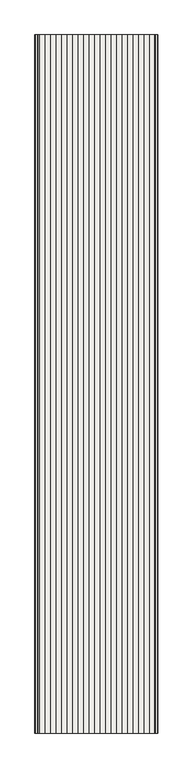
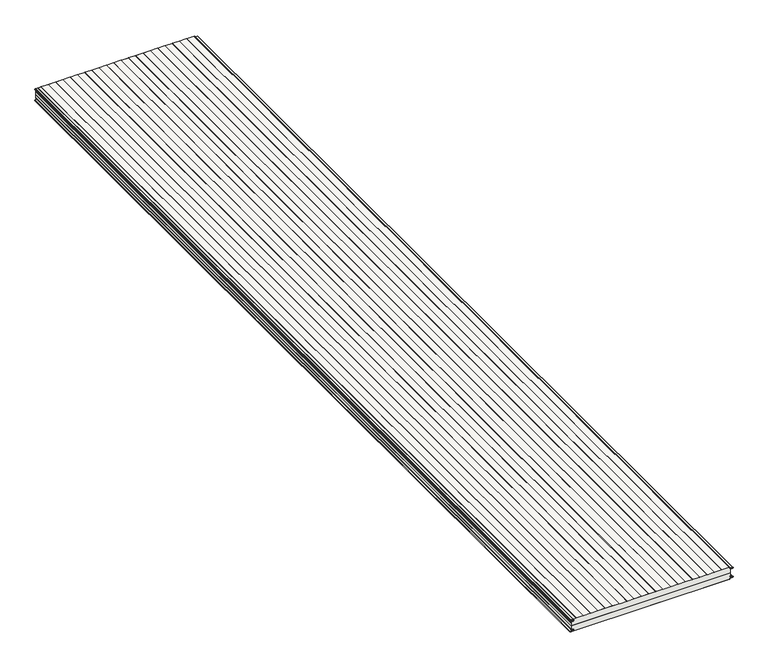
"""IFC4 building model written with IfcOpenShell, lengths in millimetres: covering geometry, Płyta warstwowa ścienna SPW-S CORE WOOL (pojedynczy arkusz) : -."""

from ifc_helpers import new_model, si_unit, point, frame, frame_2d, origin, place, context, project, spatial, polyline, circle_curve, trimmed, segment, composite_curve, outline, extrude, source, transform, mapped, element, save
from ifc_brep_helpers import plane_surface, cylinder_surface, revolved_surface, advanced_brep


def covering_0c5716a9(model_context):
    return source(origin(), model_context, "Body", "SolidModel", [
        advanced_brep(
        [(-1033.5, -5800.0, -16.6075105), (-1033.5, 0.0, -16.6075105), (-1033.5, 0.0, -40.0), (-1033.5, -5800.0, -40.0), (-1032.0785013, -5800.0, -15.109566), (-1032.0785013, 0.0, -15.109566), (-1021.2683586, -5800.0, -14.5430494), (-1021.2683586, 0.0, -14.5430494), (-1021.346807, -5800.0, -5.5519576), (-1021.346807, 0.0, -5.5519576), (-1037.1871545, -5800.0, -4.9987728), (-1037.1871545, 0.0, -4.9987728), (-1037.1173522, -5800.0, -1.0), (-1037.1173522, 0.0, -1.0), (-1035.0, -5800.0, -1.0), (-36.5, -5800.0, -40.0), (-36.5, -5800.0, -16.0462304), (-33.6570079, -5800.0, -13.0503418), (-22.43132, -5800.0, -12.4620284), (-22.5993141, -5800.0, -7.6513085), (-39.1884611, -5800.0, -7.0687817), (-41.1186621, -5800.0, -5.07), (-41.1186621, -5800.0, -3.0), (-43.1186621, -5800.0, -1.0), (-1035.0, 0.0, -1.0), (-43.1186621, 0.0, -1.0), (-41.1186621, 0.0, -3.0), (-41.1186621, 0.0, -5.07), (-39.1884611, 0.0, -7.0687817), (-22.5992017, 0.0, -7.6480914), (-22.43132, 0.0, -12.4620284), (-33.6570079, 0.0, -13.0503418), (-36.5, 0.0, -16.0462304), (-36.5, 0.0, -40.0)],
        [
            (0, 1),
            (1, 2),
            (2, 3),
            (3, 0),
            (0, 4, circle_curve(frame((-1032.0, -5800.0, -16.6075105), z_axis=(0.0, 1.0, 0.0), x_axis=(-1.0, 0.0, 0.0)), 1.5)),
            (4, 5),
            (5, 1, circle_curve(frame((-1032.0, 0.0, -16.6075105), z_axis=(0.0, -1.0, 0.0), x_axis=(-1.0, 0.0, 0.0)), 1.5)),
            (4, 6),
            (6, 7),
            (7, 5),
            (6, 8, circle_curve(frame((-1021.5038626, -5800.0, -10.049216), z_axis=(0.0, -1.0, 0.0), x_axis=(-1.0, 0.0, 0.0)), 4.5)),
            (8, 9),
            (9, 7, circle_curve(frame((-1021.5038626, 0.0, -10.049216), z_axis=(0.0, 1.0, 0.0), x_axis=(-1.0, 0.0, 0.0)), 4.5)),
            (8, 10),
            (10, 11),
            (11, 9),
            (10, 12, circle_curve(frame((-1037.1173522, -5800.0, -2.9999956), z_axis=(0.0, 1.0, 0.0), x_axis=(-1.0, 0.0, 0.0)), 1.9999956)),
            (12, 13),
            (13, 11, circle_curve(frame((-1037.1173522, 0.0, -2.9999956), z_axis=(0.0, -1.0, 0.0), x_axis=(-1.0, 0.0, 0.0)), 1.9999956)),
            (14, 12),
            (3, 15),
            (15, 16),
            (16, 17, circle_curve(frame((-33.5, -5800.0, -16.0462304), z_axis=(0.0, 1.0, 0.0), x_axis=(-1.0, 0.0, 0.0)), 3.0)),
            (17, 18),
            (18, 19, circle_curve(frame((-22.6835162, -5800.0, -10.0625421), z_axis=(0.0, -1.0, 0.0), x_axis=(-1.0, 0.0, 0.0)), 2.4127033)),
            (19, 20),
            (20, 21, circle_curve(frame((-39.1186621, -5800.0, -5.07), z_axis=(0.0, 1.0, 0.0), x_axis=(-1.0, 0.0, 0.0)), 2.0)),
            (21, 22),
            (22, 23, circle_curve(frame((-43.1186621, -5800.0, -3.0), z_axis=(0.0, -1.0, 0.0), x_axis=(-1.0, 0.0, 0.0)), 2.0)),
            (23, 14),
            (13, 24),
            (24, 25),
            (25, 26, circle_curve(frame((-43.1186621, 0.0, -3.0), z_axis=(0.0, 1.0, 0.0), x_axis=(-1.0, 0.0, 0.0)), 2.0)),
            (26, 27),
            (27, 28, circle_curve(frame((-39.1186621, 0.0, -5.07), z_axis=(0.0, -1.0, 0.0), x_axis=(-1.0, 0.0, 0.0)), 2.0)),
            (28, 29),
            (29, 30, circle_curve(frame((-22.6835162, 0.0, -10.0625421), z_axis=(0.0, 1.0, 0.0), x_axis=(-1.0, 0.0, 0.0)), 2.4127033)),
            (30, 31),
            (31, 32, circle_curve(frame((-33.5, 0.0, -16.0462304), z_axis=(0.0, -1.0, 0.0), x_axis=(-1.0, 0.0, 0.0)), 3.0)),
            (32, 33),
            (33, 2),
            (23, 25),
            (33, 15),
            (22, 26),
            (21, 27),
            (20, 28),
            (19, 29),
            (18, 30),
            (17, 31),
            (16, 32),
        ],
        [
            plane_surface(frame((-1033.5, -5800.0, -63.3924895), z_axis=(-1.0, 0.0, 0.0), x_axis=(0.0, 1.0, 0.0))),
            cylinder_surface(frame((-1032.0, -5800.0, -16.6075105), z_axis=(0.0, 1.0, 0.0), x_axis=(-1.0, 0.0, 0.0)), 1.5),
            plane_surface(frame((-1032.0785013, -5800.0, -15.109566), z_axis=(-0.052334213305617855, 0.0, 0.9986296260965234), x_axis=(0.0, 1.0, 0.0))),
            revolved_surface(polyline([(-1026.0038626, -5800.0, -10.049216), (-1026.0038626, 0.0, -10.049216)]), (-1021.5038626, -5800.0, -10.049216), (0.0, -1.0, 0.0)),
            plane_surface(frame((-1021.346807, -5800.0, -5.5519576), z_axis=(-0.03490124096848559, 0.0, -0.9993907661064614), x_axis=(0.0, 1.0, 0.0))),
            cylinder_surface(frame((-1037.1173522, -5800.0, -2.9999956), z_axis=(0.0, 1.0, 0.0), x_axis=(-1.0, 0.0, 0.0)), 1.9999956),
            plane_surface(frame((-1065.0, -5800.0, -1.0), z_axis=(0.0, -1.0, 0.0), x_axis=(-1.0, 0.0, 0.0))),
            plane_surface(frame((-1065.0, 0.0, -1.0), z_axis=(0.0, 1.0, 0.0), x_axis=(1.0, 0.0, 0.0))),
            plane_surface(frame((15.0, -5800.0, -1.0), z_axis=(0.0, 0.0, 1.0), x_axis=(0.0, 1.0, 0.0))),
            plane_surface(frame((-1065.0, -5800.0, -40.0), z_axis=(0.0, 0.0, -1.0), x_axis=(0.0, 1.0, 0.0))),
            cylinder_surface(frame((-43.1186621, -5800.0, -3.0), z_axis=(0.0, 1.0, 0.0), x_axis=(-1.0, 0.0, 0.0)), 2.0),
            plane_surface(frame((-41.1186621, -5800.0, -3.0), z_axis=(1.0, 0.0, 0.0), x_axis=(0.0, 1.0, 0.0))),
            revolved_surface(polyline([(-41.1186621, -5800.0, -5.07), (-41.1186621, 0.0, -5.07)]), (-39.1186621, -5800.0, -5.07), (0.0, -1.0, 0.0)),
            plane_surface(frame((-39.1884611, -5800.0, -7.0687817), z_axis=(0.0348994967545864, 0.0, 0.9993908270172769), x_axis=(0.0, 1.0, 0.0))),
            cylinder_surface(frame((-22.6835162, -5800.0, -10.0625421), z_axis=(0.0, 1.0, 0.0), x_axis=(-1.0, 0.0, 0.0)), 2.4127033),
            plane_surface(frame((-22.43132, -5800.0, -12.4620284), z_axis=(0.052335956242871, 0.0, -0.9986295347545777), x_axis=(0.0, 1.0, 0.0))),
            revolved_surface(polyline([(-36.5, -5800.0, -16.0462304), (-36.5, 0.0, -16.0462304)]), (-33.5, -5800.0, -16.0462304), (0.0, -1.0, 0.0)),
            plane_surface(frame((-36.5, -5800.0, -16.0462304), z_axis=(1.0, 0.0, 0.0), x_axis=(0.0, 1.0, 0.0))),
        ],
        [
            (0, [[1, 2, 3, 4]]),
            (1, [[-1, 5, 6, 7]]),
            (2, [[-6, 8, 9, 10]]),
            (3, [[-9, 11, 12, 13]]),
            (4, [[-12, 14, 15, 16]]),
            (5, [[-15, 17, 18, 19]]),
            (6, [[20, -17, -14, -11, -8, -5, -4, 21, 22, 23, 24, 25, 26, 27, 28, 29, 30]]),
            (7, [[31, 32, 33, 34, 35, 36, 37, 38, 39, 40, 41, -2, -7, -10, -13, -16, -19]]),
            (8, [[-20, -30, 42, -32, -31, -18]]),
            (9, [[-3, -41, 43, -21]]),
            (10, [[44, -33, -42, -29]]),
            (11, [[-44, -28, 45, -34]]),
            (12, [[-45, -27, 46, -35]]),
            (13, [[-46, -26, 47, -36]]),
            (14, [[-47, -25, 48, -37]]),
            (15, [[-48, -24, 49, -38]]),
            (16, [[-49, -23, 50, -39]]),
            (17, [[-50, -22, -43, -40]]),
        ],
    ),
        advanced_brep(
        [(-1037.1173522, -5800.0, -79.0), (-1035.0, -5800.0, -79.0), (-44.6192414, -5800.0, -79.0), (-43.1186621, -5800.0, -79.0), (-41.1186621, -5800.0, -77.0), (-41.1186621, -5800.0, -74.93), (-39.1884611, -5800.0, -72.9312183), (-22.5992017, -5800.0, -72.3519086), (-22.1786572, -5800.0, -67.5781667), (-33.6570079, -5800.0, -66.9496582), (-36.5, -5800.0, -63.9537696), (-36.5, -5800.0, -40.0), (-1033.5, -5800.0, -40.0), (-1033.5, -5800.0, -63.3924895), (-1032.0785013, -5800.0, -64.890434), (-1021.2683586, -5800.0, -65.4569506), (-1021.346807, -5800.0, -74.4480424), (-1037.1871545, -5800.0, -75.0012272), (-1035.0, 0.0, -79.0), (-1037.1173522, 0.0, -79.0), (-1037.1871545, 0.0, -75.0012272), (-1021.346807, 0.0, -74.4480424), (-1021.2683586, 0.0, -65.4569506), (-1032.0785013, 0.0, -64.890434), (-1033.5, 0.0, -63.3924895), (-1033.5, 0.0, -40.0), (-36.5, 0.0, -40.0), (-36.5, 0.0, -63.9537696), (-33.6570079, 0.0, -66.9496582), (-22.1786572, 0.0, -67.5781667), (-22.5993141, 0.0, -72.3486915), (-39.1884611, 0.0, -72.9312183), (-41.1186621, 0.0, -74.93), (-41.1186621, 0.0, -77.0), (-43.1186621, 0.0, -79.0), (-44.6192414, 0.0, -79.0)],
        [
            (0, 1),
            (1, 2),
            (2, 3),
            (3, 4, circle_curve(frame((-43.1186621, -5800.0, -77.0), z_axis=(0.0, -1.0, 0.0), x_axis=(-1.0, 0.0, 0.0)), 2.0)),
            (4, 5),
            (5, 6, circle_curve(frame((-39.1186621, -5800.0, -74.93), z_axis=(0.0, 1.0, 0.0), x_axis=(-1.0, 0.0, 0.0)), 2.0)),
            (6, 7),
            (7, 8, circle_curve(frame((-22.6835162, -5800.0, -69.9374579), z_axis=(0.0, -1.0, 0.0), x_axis=(-1.0, 0.0, 0.0)), 2.4127033)),
            (8, 9),
            (9, 10, circle_curve(frame((-33.5, -5800.0, -63.9537696), z_axis=(0.0, 1.0, 0.0), x_axis=(-1.0, 0.0, 0.0)), 3.0)),
            (10, 11),
            (11, 12),
            (12, 13),
            (13, 14, circle_curve(frame((-1032.0, -5800.0, -63.3924895), z_axis=(0.0, -1.0, 0.0), x_axis=(-1.0, 0.0, 0.0)), 1.5)),
            (14, 15),
            (15, 16, circle_curve(frame((-1021.5038626, -5800.0, -69.950784), z_axis=(0.0, 1.0, 0.0), x_axis=(-1.0, 0.0, 0.0)), 4.5)),
            (16, 17),
            (17, 0, circle_curve(frame((-1037.1173522, -5800.0, -77.0000044), z_axis=(0.0, -1.0, 0.0), x_axis=(-1.0, 0.0, 0.0)), 1.9999956)),
            (18, 19),
            (19, 20, circle_curve(frame((-1037.1173522, 0.0, -77.0000044), z_axis=(0.0, 1.0, 0.0), x_axis=(-1.0, 0.0, 0.0)), 1.9999956)),
            (20, 21),
            (21, 22, circle_curve(frame((-1021.5038626, 0.0, -69.950784), z_axis=(0.0, -1.0, 0.0), x_axis=(-1.0, 0.0, 0.0)), 4.5)),
            (22, 23),
            (23, 24, circle_curve(frame((-1032.0, 0.0, -63.3924895), z_axis=(0.0, 1.0, 0.0), x_axis=(-1.0, 0.0, 0.0)), 1.5)),
            (24, 25),
            (25, 26),
            (26, 27),
            (27, 28, circle_curve(frame((-33.5, 0.0, -63.9537696), z_axis=(0.0, -1.0, 0.0), x_axis=(-1.0, 0.0, 0.0)), 3.0)),
            (28, 29),
            (29, 30, circle_curve(frame((-22.6835162, 0.0, -69.9374579), z_axis=(0.0, 1.0, 0.0), x_axis=(-1.0, 0.0, 0.0)), 2.4127033)),
            (30, 31),
            (31, 32, circle_curve(frame((-39.1186621, 0.0, -74.93), z_axis=(0.0, -1.0, 0.0), x_axis=(-1.0, 0.0, 0.0)), 2.0)),
            (32, 33),
            (33, 34, circle_curve(frame((-43.1186621, 0.0, -77.0), z_axis=(0.0, 1.0, 0.0), x_axis=(-1.0, 0.0, 0.0)), 2.0)),
            (34, 35),
            (35, 18),
            (25, 12),
            (11, 26),
            (0, 19),
            (34, 3),
            (17, 20),
            (16, 21),
            (15, 22),
            (14, 23),
            (13, 24),
            (10, 27),
            (9, 28),
            (8, 29),
            (7, 30),
            (6, 31),
            (5, 32),
            (4, 33),
        ],
        [
            plane_surface(frame((-1065.0, -5800.0, -40.0), z_axis=(0.0, -1.0, 0.0), x_axis=(-1.0, 0.0, 0.0))),
            plane_surface(frame((-1065.0, 0.0, -40.0), z_axis=(0.0, 1.0, 0.0), x_axis=(1.0, 0.0, 0.0))),
            plane_surface(frame((15.0, -5800.0, -40.0), z_axis=(0.0, 0.0, 1.0), x_axis=(0.0, 1.0, 0.0))),
            plane_surface(frame((-1065.0, -5800.0, -79.0), z_axis=(0.0, 0.0, -1.0), x_axis=(0.0, 1.0, 0.0))),
            cylinder_surface(frame((-1037.1173522, -5800.0, -77.0000044), z_axis=(0.0, 1.0, 0.0), x_axis=(-1.0, 0.0, 0.0)), 1.9999956),
            plane_surface(frame((-1037.1871545, -5800.0, -75.0012272), z_axis=(-0.03490124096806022, 0.0, 0.9993907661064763), x_axis=(0.0, 1.0, 0.0))),
            revolved_surface(polyline([(-1026.0038626, -5800.0, -69.950784), (-1026.0038626, 0.0, -69.950784)]), (-1021.5038626, -5800.0, -69.950784), (0.0, -1.0, 0.0)),
            plane_surface(frame((-1021.2683586, -5800.0, -65.4569506), z_axis=(-0.05233421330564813, 0.0, -0.9986296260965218), x_axis=(0.0, 1.0, 0.0))),
            cylinder_surface(frame((-1032.0, -5800.0, -63.3924895), z_axis=(0.0, 1.0, 0.0), x_axis=(-1.0, 0.0, 0.0)), 1.5),
            plane_surface(frame((-1033.5, -5800.0, -63.3924895), z_axis=(-1.0, 0.0, 0.0), x_axis=(0.0, 1.0, 0.0))),
            plane_surface(frame((-36.5, -5800.0, -16.0462304), z_axis=(1.0, 0.0, 0.0), x_axis=(0.0, 1.0, 0.0))),
            revolved_surface(polyline([(-36.5, -5800.0, -63.9537696), (-36.5, 0.0, -63.9537696)]), (-33.5, -5800.0, -63.9537696), (0.0, -1.0, 0.0)),
            plane_surface(frame((-33.6570079, -5800.0, -66.9496582), z_axis=(0.05467409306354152, 0.0, 0.9985042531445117), x_axis=(0.0, 1.0, 0.0))),
            cylinder_surface(frame((-22.6835162, -5800.0, -69.9374579), z_axis=(0.0, 1.0, 0.0), x_axis=(-1.0, 0.0, 0.0)), 2.4127033),
            plane_surface(frame((-22.5992017, -5800.0, -72.3519086), z_axis=(0.03489949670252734, 0.0, -0.9993908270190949), x_axis=(0.0, 1.0, 0.0))),
            revolved_surface(polyline([(-41.1186621, -5800.0, -74.93), (-41.1186621, 0.0, -74.93)]), (-39.1186621, -5800.0, -74.93), (0.0, -1.0, 0.0)),
            plane_surface(frame((-41.1186621, -5800.0, -74.93), z_axis=(1.0, 0.0, 0.0), x_axis=(0.0, 1.0, 0.0))),
            cylinder_surface(frame((-43.1186621, -5800.0, -77.0), z_axis=(0.0, 1.0, 0.0), x_axis=(-1.0, 0.0, 0.0)), 2.0),
        ],
        [
            (0, [[1, 2, 3, 4, 5, 6, 7, 8, 9, 10, 11, 12, 13, 14, 15, 16, 17, 18]]),
            (1, [[19, 20, 21, 22, 23, 24, 25, 26, 27, 28, 29, 30, 31, 32, 33, 34, 35, 36]]),
            (2, [[37, -12, 38, -26]]),
            (3, [[-1, 39, -19, -36, -35, 40, -3, -2]]),
            (4, [[41, -20, -39, -18]]),
            (5, [[-41, -17, 42, -21]]),
            (6, [[-42, -16, 43, -22]]),
            (7, [[-43, -15, 44, -23]]),
            (8, [[-44, -14, 45, -24]]),
            (9, [[-45, -13, -37, -25]]),
            (10, [[46, -27, -38, -11]]),
            (11, [[-46, -10, 47, -28]]),
            (12, [[-47, -9, 48, -29]]),
            (13, [[-48, -8, 49, -30]]),
            (14, [[-49, -7, 50, -31]]),
            (15, [[-50, -6, 51, -32]]),
            (16, [[-51, -5, 52, -33]]),
            (17, [[-52, -4, -40, -34]]),
        ],
    ),
        advanced_brep(
        [(-1003.4098003, 0.0, -0.4), (-1002.0275239, 0.0, 0.0), (-957.8098003, 0.0, 0.0), (-956.4275239, 0.0, -0.4), (-912.2098003, 0.0, -0.4), (-910.8275239, 0.0, 0.0), (-866.6098003, 0.0, 0.0), (-865.2275239, 0.0, -0.4), (-821.0098003, 0.0, -0.4), (-819.6275239, 0.0, 0.0), (-775.4098003, 0.0, 0.0), (-774.0275239, 0.0, -0.4), (-729.8098003, 0.0, -0.4), (-728.4275239, 0.0, 0.0), (-684.2098003, 0.0, 0.0), (-682.8275239, 0.0, -0.4), (-638.6098003, 0.0, -0.4), (-637.2275239, 0.0, 0.0), (-593.0098003, 0.0, 0.0), (-591.6275239, 0.0, -0.4), (-547.4098003, 0.0, -0.4), (-546.0275239, 0.0, 0.0), (-501.8098003, 0.0, 0.0), (-500.4275239, 0.0, -0.4), (-456.2098003, 0.0, -0.4), (-454.8275239, 0.0, 0.0), (-410.6098003, 0.0, 0.0), (-409.2275239, 0.0, -0.4), (-365.0098003, 0.0, -0.4), (-363.6275239, 0.0, 0.0), (-319.4098003, 0.0, 0.0), (-318.0275239, 0.0, -0.4), (-273.8098003, 0.0, -0.4), (-272.4275239, 0.0, 0.0), (-228.2098003, 0.0, 0.0), (-226.8275239, 0.0, -0.4), (-182.6098003, 0.0, -0.4), (-181.2275239, 0.0, 0.0), (-137.0098003, 0.0, 0.0), (-135.6275239, 0.0, -0.4), (-91.4098003, 0.0, -0.4), (-90.0275239, 0.0, 0.0), (-43.1186621, 0.0, 0.0), (-40.1186621, 0.0, -3.0), (-40.1186621, 0.0, -5.07), (-39.1535616, 0.0, -6.0693908), (-22.7218558, 0.0, -6.6431986), (-22.6550677, 0.0, -13.4751269), (-33.6046719, 0.0, -14.0489713), (-35.5, 0.0, -16.0462304), (-35.5, 0.0, -18.5462304), (-36.5, 0.0, -18.5462304), (-36.5, 0.0, -16.0462304), (-33.6570079, 0.0, -13.0503418), (-22.43132, 0.0, -12.4620284), (-22.5993141, 0.0, -7.6513085), (-39.1884611, 0.0, -7.0687817), (-41.1186621, 0.0, -5.07), (-41.1186621, 0.0, -3.0), (-43.1186621, 0.0, -1.0), (-1035.0, 0.0, -1.0), (-1035.0, 0.0, -0.4), (-43.1186621, -5800.0, -1.0), (-41.1186621, -5800.0, -3.0), (-41.1186621, -5800.0, -5.07), (-39.1884611, -5800.0, -7.0687817), (-22.5992017, -5800.0, -7.6480914), (-22.43132, -5800.0, -12.4620284), (-33.6570079, -5800.0, -13.0503418), (-36.5, -5800.0, -16.0462304), (-36.5, -5800.0, -18.5462304), (-35.5, -5800.0, -18.5462304), (-35.5, -5800.0, -16.0462304), (-33.6046719, -5800.0, -14.0489713), (-22.6550677, -5800.0, -13.4751269), (-22.6835162, -5800.0, -6.6498388), (-39.1535616, -5800.0, -6.0693908), (-40.1186621, -5800.0, -5.07), (-40.1186621, -5800.0, -3.0), (-43.1186621, -5800.0, 0.0), (-90.0275239, -5800.0, 0.0), (-91.4098003, -5800.0, -0.4), (-135.6275239, -5800.0, -0.4), (-137.0098003, -5800.0, 0.0), (-181.2275239, -5800.0, 0.0), (-182.6098003, -5800.0, -0.4), (-226.8275239, -5800.0, -0.4), (-228.2098003, -5800.0, 0.0), (-272.4275239, -5800.0, 0.0), (-273.8098003, -5800.0, -0.4), (-318.0275239, -5800.0, -0.4), (-319.4098003, -5800.0, 0.0), (-363.6275239, -5800.0, 0.0), (-365.0098003, -5800.0, -0.4), (-409.2275239, -5800.0, -0.4), (-410.6098003, -5800.0, 0.0), (-454.8275239, -5800.0, 0.0), (-456.2098003, -5800.0, -0.4), (-500.4275239, -5800.0, -0.4), (-501.8098003, -5800.0, 0.0), (-546.0275239, -5800.0, 0.0), (-547.4098003, -5800.0, -0.4), (-591.6275239, -5800.0, -0.4), (-593.0098003, -5800.0, 0.0), (-637.2275239, -5800.0, 0.0), (-638.6098003, -5800.0, -0.4), (-682.8275239, -5800.0, -0.4), (-684.2098003, -5800.0, 0.0), (-728.4275239, -5800.0, 0.0), (-729.8098003, -5800.0, -0.4), (-774.0275239, -5800.0, -0.4), (-775.4098003, -5800.0, 0.0), (-819.6275239, -5800.0, 0.0), (-821.0098003, -5800.0, -0.4), (-865.2275239, -5800.0, -0.4), (-866.6098003, -5800.0, 0.0), (-910.8275239, -5800.0, 0.0), (-912.2098003, -5800.0, -0.4), (-956.4275239, -5800.0, -0.4), (-957.8098003, -5800.0, 0.0), (-1002.0275239, -5800.0, 0.0), (-1003.4098003, -5800.0, -0.4), (-1035.0, -5800.0, -0.4), (-1035.0, -5800.0, -1.0)],
        [
            (0, 1),
            (1, 2),
            (2, 3),
            (3, 4),
            (4, 5),
            (5, 6),
            (6, 7),
            (7, 8),
            (8, 9),
            (9, 10),
            (10, 11),
            (11, 12),
            (12, 13),
            (13, 14),
            (14, 15),
            (15, 16),
            (16, 17),
            (17, 18),
            (18, 19),
            (19, 20),
            (20, 21),
            (21, 22),
            (22, 23),
            (23, 24),
            (24, 25),
            (25, 26),
            (26, 27),
            (27, 28),
            (28, 29),
            (29, 30),
            (30, 31),
            (31, 32),
            (32, 33),
            (33, 34),
            (34, 35),
            (35, 36),
            (36, 37),
            (37, 38),
            (38, 39),
            (39, 40),
            (40, 41),
            (41, 42),
            (42, 43, circle_curve(frame((-43.1186621, 0.0, -3.0), z_axis=(0.0, 1.0, 0.0), x_axis=(1.0, 0.0, 0.0)), 3.0)),
            (43, 44),
            (44, 45, circle_curve(frame((-39.1186621, 0.0, -5.07), z_axis=(0.0, -1.0, 0.0), x_axis=(1.0, 0.0, 0.0)), 1.0)),
            (45, 46),
            (46, 47, circle_curve(frame((-22.6835162, 0.0, -10.0625421), z_axis=(0.0, 1.0, 0.0), x_axis=(1.0, 0.0, 0.0)), 3.4127033)),
            (47, 48),
            (48, 49, circle_curve(frame((-33.5, 0.0, -16.0462304), z_axis=(0.0, -1.0, 0.0), x_axis=(1.0, 0.0, 0.0)), 2.0)),
            (49, 50),
            (50, 51),
            (51, 52),
            (52, 53, circle_curve(frame((-33.5, 0.0, -16.0462304), z_axis=(0.0, 1.0, 0.0), x_axis=(1.0, 0.0, 0.0)), 3.0)),
            (53, 54),
            (54, 55, circle_curve(frame((-22.6835162, 0.0, -10.0625421), z_axis=(0.0, -1.0, 0.0), x_axis=(1.0, 0.0, 0.0)), 2.4127033)),
            (55, 56),
            (56, 57, circle_curve(frame((-39.1186621, 0.0, -5.07), z_axis=(0.0, 1.0, 0.0), x_axis=(1.0, 0.0, 0.0)), 2.0)),
            (57, 58),
            (58, 59, circle_curve(frame((-43.1186621, 0.0, -3.0), z_axis=(0.0, -1.0, 0.0), x_axis=(1.0, 0.0, 0.0)), 2.0)),
            (59, 60),
            (60, 61),
            (61, 0),
            (62, 63, circle_curve(frame((-43.1186621, -5800.0, -3.0), z_axis=(0.0, 1.0, 0.0), x_axis=(1.0, 0.0, 0.0)), 2.0)),
            (63, 64),
            (64, 65, circle_curve(frame((-39.1186621, -5800.0, -5.07), z_axis=(0.0, -1.0, 0.0), x_axis=(1.0, 0.0, 0.0)), 2.0)),
            (65, 66),
            (66, 67, circle_curve(frame((-22.6835162, -5800.0, -10.0625421), z_axis=(0.0, 1.0, 0.0), x_axis=(1.0, 0.0, 0.0)), 2.4127033)),
            (67, 68),
            (68, 69, circle_curve(frame((-33.5, -5800.0, -16.0462304), z_axis=(0.0, -1.0, 0.0), x_axis=(1.0, 0.0, 0.0)), 3.0)),
            (69, 70),
            (70, 71),
            (71, 72),
            (72, 73, circle_curve(frame((-33.5, -5800.0, -16.0462304), z_axis=(0.0, 1.0, 0.0), x_axis=(1.0, 0.0, 0.0)), 2.0)),
            (73, 74),
            (74, 75, circle_curve(frame((-22.6835162, -5800.0, -10.0625421), z_axis=(0.0, -1.0, 0.0), x_axis=(1.0, 0.0, 0.0)), 3.4127033)),
            (75, 76),
            (76, 77, circle_curve(frame((-39.1186621, -5800.0, -5.07), z_axis=(0.0, 1.0, 0.0), x_axis=(1.0, 0.0, 0.0)), 1.0)),
            (77, 78),
            (78, 79, circle_curve(frame((-43.1186621, -5800.0, -3.0), z_axis=(0.0, -1.0, 0.0), x_axis=(1.0, 0.0, 0.0)), 3.0)),
            (79, 80),
            (80, 81),
            (81, 82),
            (82, 83),
            (83, 84),
            (84, 85),
            (85, 86),
            (86, 87),
            (87, 88),
            (88, 89),
            (89, 90),
            (90, 91),
            (91, 92),
            (92, 93),
            (93, 94),
            (94, 95),
            (95, 96),
            (96, 97),
            (97, 98),
            (98, 99),
            (99, 100),
            (100, 101),
            (101, 102),
            (102, 103),
            (103, 104),
            (104, 105),
            (105, 106),
            (106, 107),
            (107, 108),
            (108, 109),
            (109, 110),
            (110, 111),
            (111, 112),
            (112, 113),
            (113, 114),
            (114, 115),
            (115, 116),
            (116, 117),
            (117, 118),
            (118, 119),
            (119, 120),
            (120, 121),
            (121, 122),
            (122, 123),
            (123, 62),
            (59, 62),
            (123, 60),
            (56, 65),
            (64, 57),
            (63, 58),
            (55, 66),
            (53, 68),
            (67, 54),
            (52, 69),
            (51, 70),
            (50, 71),
            (42, 79),
            (78, 43),
            (77, 44),
            (76, 45),
            (75, 46),
            (47, 74),
            (73, 48),
            (72, 49),
            (121, 0),
            (61, 122),
            (120, 1),
            (119, 2),
            (118, 3),
            (117, 4),
            (116, 5),
            (115, 6),
            (114, 7),
            (113, 8),
            (112, 9),
            (111, 10),
            (110, 11),
            (109, 12),
            (108, 13),
            (107, 14),
            (106, 15),
            (105, 16),
            (104, 17),
            (103, 18),
            (102, 19),
            (101, 20),
            (100, 21),
            (99, 22),
            (98, 23),
            (97, 24),
            (96, 25),
            (95, 26),
            (94, 27),
            (93, 28),
            (92, 29),
            (91, 30),
            (90, 31),
            (89, 32),
            (88, 33),
            (87, 34),
            (86, 35),
            (85, 36),
            (84, 37),
            (83, 38),
            (82, 39),
            (81, 40),
            (80, 41),
        ],
        [
            plane_surface(frame((-35.0, 0.0, 0.0), z_axis=(0.0, 1.0, 0.0), x_axis=(1.0, 0.0, 0.0))),
            plane_surface(frame((-35.0, -5800.0, 0.0), z_axis=(0.0, -1.0, 0.0), x_axis=(1.0, 0.0, 0.0))),
            plane_surface(frame((-43.1186621, 0.0, -1.0), z_axis=(0.0, 0.0, -1.0), x_axis=(0.0, -1.0, 0.0))),
            cylinder_surface(frame((-39.1186621, 0.0, -5.07), z_axis=(0.0, 1.0, 0.0), x_axis=(1.0, 0.0, 0.0)), 2.0),
            plane_surface(frame((-41.1186621, 0.0, -5.07), z_axis=(-1.0, 0.0, 0.0), x_axis=(0.0, -1.0, 0.0))),
            revolved_surface(polyline([(-41.1186621, -5800.0, -3.0), (-41.1186621, 0.0, -3.0)]), (-43.1186621, 0.0, -3.0), (0.0, -1.0, 0.0)),
            plane_surface(frame((-22.5992017, 0.0, -7.6480914), z_axis=(-0.034899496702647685, 0.0, -0.9993908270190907), x_axis=(0.0, -1.0, 0.0))),
            plane_surface(frame((-33.6570079, 0.0, -13.0503418), z_axis=(-0.05233595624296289, 0.0, 0.998629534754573), x_axis=(0.0, -1.0, 0.0))),
            cylinder_surface(frame((-33.5, 0.0, -16.0462304), z_axis=(0.0, 1.0, 0.0), x_axis=(1.0, 0.0, 0.0)), 3.0),
            plane_surface(frame((-36.5, 0.0, -18.5462304), z_axis=(-1.0, 0.0, 0.0), x_axis=(0.0, -1.0, 0.0))),
            plane_surface(frame((-35.5, 0.0, -18.5462304), z_axis=(0.0, 0.0, -1.0), x_axis=(0.0, -1.0, 0.0))),
            cylinder_surface(frame((-43.1186621, 0.0, -3.0), z_axis=(0.0, 1.0, 0.0), x_axis=(1.0, 0.0, 0.0)), 3.0),
            plane_surface(frame((-40.1186621, 0.0, -3.0), z_axis=(1.0, 0.0, 0.0), x_axis=(0.0, -1.0, 0.0))),
            revolved_surface(polyline([(-38.1186621, -5800.0, -5.07), (-38.1186621, 0.0, -5.07)]), (-39.1186621, 0.0, -5.07), (0.0, -1.0, 0.0)),
            plane_surface(frame((-39.1535616, 0.0, -6.0693908), z_axis=(0.03489949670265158, 0.0, 0.9993908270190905), x_axis=(0.0, -1.0, 0.0))),
            plane_surface(frame((-22.6550677, 0.0, -13.4751269), z_axis=(0.052335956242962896, 0.0, -0.998629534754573), x_axis=(0.0, -1.0, 0.0))),
            revolved_surface(polyline([(-31.5, -5800.0, -16.0462304), (-31.5, 0.0, -16.0462304)]), (-33.5, 0.0, -16.0462304), (0.0, -1.0, 0.0)),
            cylinder_surface(frame((-22.6835162, 0.0, -10.0625421), z_axis=(0.0, 1.0, 0.0), x_axis=(1.0, 0.0, 0.0)), 3.4127033),
            revolved_surface(polyline([(-20.2708129, -5800.0, -10.0625421), (-20.2708129, 0.0, -10.0625421)]), (-22.6835162, 0.0, -10.0625421), (0.0, -1.0, 0.0)),
            plane_surface(frame((-35.5, 0.0, -16.0462304), z_axis=(1.0, 0.0, 0.0), x_axis=(0.0, -1.0, 0.0))),
            plane_surface(frame((-1047.6275239, 0.0, -0.4), z_axis=(0.0, 0.0, 1.0), x_axis=(0.0, -1.0, 0.0))),
            plane_surface(frame((-1003.4098003, 0.0, -0.4), z_axis=(-0.27797301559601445, 0.0, 0.9605888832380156), x_axis=(0.0, -1.0, 0.0))),
            plane_surface(frame((-1002.0275239, 0.0, 0.0), z_axis=(0.0, 0.0, 1.0), x_axis=(0.0, -1.0, 0.0))),
            plane_surface(frame((-957.8098003, 0.0, 0.0), z_axis=(0.27797301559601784, 0.0, 0.9605888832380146), x_axis=(0.0, -1.0, 0.0))),
            plane_surface(frame((-956.4275239, 0.0, -0.4), z_axis=(0.0, 0.0, 1.0), x_axis=(0.0, -1.0, 0.0))),
            plane_surface(frame((-912.2098003, 0.0, -0.4), z_axis=(-0.27797301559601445, 0.0, 0.9605888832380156), x_axis=(0.0, -1.0, 0.0))),
            plane_surface(frame((-910.8275239, 0.0, 0.0), z_axis=(0.0, 0.0, 1.0), x_axis=(0.0, -1.0, 0.0))),
            plane_surface(frame((-866.6098003, 0.0, 0.0), z_axis=(0.27797301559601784, 0.0, 0.9605888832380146), x_axis=(0.0, -1.0, 0.0))),
            plane_surface(frame((-865.2275239, 0.0, -0.4), z_axis=(0.0, 0.0, 1.0), x_axis=(0.0, -1.0, 0.0))),
            plane_surface(frame((-821.0098003, 0.0, -0.4), z_axis=(-0.27797301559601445, 0.0, 0.9605888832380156), x_axis=(0.0, -1.0, 0.0))),
            plane_surface(frame((-819.6275239, 0.0, 0.0), z_axis=(0.0, 0.0, 1.0), x_axis=(0.0, -1.0, 0.0))),
            plane_surface(frame((-775.4098003, 0.0, 0.0), z_axis=(0.27797301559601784, 0.0, 0.9605888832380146), x_axis=(0.0, -1.0, 0.0))),
            plane_surface(frame((-774.0275239, 0.0, -0.4), z_axis=(0.0, 0.0, 1.0), x_axis=(0.0, -1.0, 0.0))),
            plane_surface(frame((-729.8098003, 0.0, -0.4), z_axis=(-0.27797301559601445, 0.0, 0.9605888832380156), x_axis=(0.0, -1.0, 0.0))),
            plane_surface(frame((-728.4275239, 0.0, 0.0), z_axis=(0.0, 0.0, 1.0), x_axis=(0.0, -1.0, 0.0))),
            plane_surface(frame((-684.2098003, 0.0, 0.0), z_axis=(0.27797301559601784, 0.0, 0.9605888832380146), x_axis=(0.0, -1.0, 0.0))),
            plane_surface(frame((-682.8275239, 0.0, -0.4), z_axis=(0.0, 0.0, 1.0), x_axis=(0.0, -1.0, 0.0))),
            plane_surface(frame((-638.6098003, 0.0, -0.4), z_axis=(-0.27797301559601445, 0.0, 0.9605888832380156), x_axis=(0.0, -1.0, 0.0))),
            plane_surface(frame((-637.2275239, 0.0, 0.0), z_axis=(0.0, 0.0, 1.0), x_axis=(0.0, -1.0, 0.0))),
            plane_surface(frame((-593.0098003, 0.0, 0.0), z_axis=(0.27797301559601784, 0.0, 0.9605888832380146), x_axis=(0.0, -1.0, 0.0))),
            plane_surface(frame((-591.6275239, 0.0, -0.4), z_axis=(0.0, 0.0, 1.0), x_axis=(0.0, -1.0, 0.0))),
            plane_surface(frame((-547.4098003, 0.0, -0.4), z_axis=(-0.27797301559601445, 0.0, 0.9605888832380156), x_axis=(0.0, -1.0, 0.0))),
            plane_surface(frame((-546.0275239, 0.0, 0.0), z_axis=(0.0, 0.0, 1.0), x_axis=(0.0, -1.0, 0.0))),
            plane_surface(frame((-501.8098003, 0.0, 0.0), z_axis=(0.27797301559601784, 0.0, 0.9605888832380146), x_axis=(0.0, -1.0, 0.0))),
            plane_surface(frame((-500.4275239, 0.0, -0.4), z_axis=(0.0, 0.0, 1.0), x_axis=(0.0, -1.0, 0.0))),
            plane_surface(frame((-456.2098003, 0.0, -0.4), z_axis=(-0.27797301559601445, 0.0, 0.9605888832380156), x_axis=(0.0, -1.0, 0.0))),
            plane_surface(frame((-454.8275239, 0.0, 0.0), z_axis=(0.0, 0.0, 1.0), x_axis=(0.0, -1.0, 0.0))),
            plane_surface(frame((-410.6098003, 0.0, 0.0), z_axis=(0.27797301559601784, 0.0, 0.9605888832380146), x_axis=(0.0, -1.0, 0.0))),
            plane_surface(frame((-409.2275239, 0.0, -0.4), z_axis=(0.0, 0.0, 1.0), x_axis=(0.0, -1.0, 0.0))),
            plane_surface(frame((-365.0098003, 0.0, -0.4), z_axis=(-0.27797301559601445, 0.0, 0.9605888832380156), x_axis=(0.0, -1.0, 0.0))),
            plane_surface(frame((-363.6275239, 0.0, 0.0), z_axis=(0.0, 0.0, 1.0), x_axis=(0.0, -1.0, 0.0))),
            plane_surface(frame((-319.4098003, 0.0, 0.0), z_axis=(0.27797301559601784, 0.0, 0.9605888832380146), x_axis=(0.0, -1.0, 0.0))),
            plane_surface(frame((-318.0275239, 0.0, -0.4), z_axis=(0.0, 0.0, 1.0), x_axis=(0.0, -1.0, 0.0))),
            plane_surface(frame((-273.8098003, 0.0, -0.4), z_axis=(-0.27797301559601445, 0.0, 0.9605888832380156), x_axis=(0.0, -1.0, 0.0))),
            plane_surface(frame((-272.4275239, 0.0, 0.0), z_axis=(0.0, 0.0, 1.0), x_axis=(0.0, -1.0, 0.0))),
            plane_surface(frame((-228.2098003, 0.0, 0.0), z_axis=(0.27797301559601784, 0.0, 0.9605888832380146), x_axis=(0.0, -1.0, 0.0))),
            plane_surface(frame((-226.8275239, 0.0, -0.4), z_axis=(0.0, 0.0, 1.0), x_axis=(0.0, -1.0, 0.0))),
            plane_surface(frame((-182.6098003, 0.0, -0.4), z_axis=(-0.27797301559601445, 0.0, 0.9605888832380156), x_axis=(0.0, -1.0, 0.0))),
            plane_surface(frame((-181.2275239, 0.0, 0.0), z_axis=(0.0, 0.0, 1.0), x_axis=(0.0, -1.0, 0.0))),
            plane_surface(frame((-137.0098003, 0.0, 0.0), z_axis=(0.27797301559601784, 0.0, 0.9605888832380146), x_axis=(0.0, -1.0, 0.0))),
            plane_surface(frame((-135.6275239, 0.0, -0.4), z_axis=(0.0, 0.0, 1.0), x_axis=(0.0, -1.0, 0.0))),
            plane_surface(frame((-91.4098003, 0.0, -0.4), z_axis=(-0.27797301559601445, 0.0, 0.9605888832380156), x_axis=(0.0, -1.0, 0.0))),
            plane_surface(frame((-90.0275239, 0.0, 0.0), z_axis=(0.0, 0.0, 1.0), x_axis=(0.0, -1.0, 0.0))),
            plane_surface(frame((-1035.0, -5800.0, -1.0), z_axis=(-1.0, 0.0, 0.0), x_axis=(0.0, 1.0, 0.0))),
        ],
        [
            (0, [[1, 2, 3, 4, 5, 6, 7, 8, 9, 10, 11, 12, 13, 14, 15, 16, 17, 18, 19, 20, 21, 22, 23, 24, 25, 26, 27, 28, 29, 30, 31, 32, 33, 34, 35, 36, 37, 38, 39, 40, 41, 42, 43, 44, 45, 46, 47, 48, 49, 50, 51, 52, 53, 54, 55, 56, 57, 58, 59, 60, 61, 62]]),
            (1, [[63, 64, 65, 66, 67, 68, 69, 70, 71, 72, 73, 74, 75, 76, 77, 78, 79, 80, 81, 82, 83, 84, 85, 86, 87, 88, 89, 90, 91, 92, 93, 94, 95, 96, 97, 98, 99, 100, 101, 102, 103, 104, 105, 106, 107, 108, 109, 110, 111, 112, 113, 114, 115, 116, 117, 118, 119, 120, 121, 122, 123, 124]]),
            (2, [[125, -124, 126, -60]]),
            (3, [[-57, 127, -65, 128]]),
            (4, [[-58, -128, -64, 129]]),
            (5, [[-59, -129, -63, -125]]),
            (6, [[-56, 130, -66, -127]]),
            (7, [[-54, 131, -68, 132]]),
            (8, [[-53, 133, -69, -131]]),
            (9, [[-52, 134, -70, -133]]),
            (10, [[-51, 135, -71, -134]]),
            (11, [[-43, 136, -79, 137]]),
            (12, [[-44, -137, -78, 138]]),
            (13, [[-45, -138, -77, 139]]),
            (14, [[-46, -139, -76, 140]]),
            (15, [[-48, 141, -74, 142]]),
            (16, [[-49, -142, -73, 143]]),
            (17, [[-47, -140, -75, -141]]),
            (18, [[-55, -132, -67, -130]]),
            (19, [[-50, -143, -72, -135]]),
            (20, [[144, -62, 145, -122]]),
            (21, [[-1, -144, -121, 146]]),
            (22, [[-2, -146, -120, 147]]),
            (23, [[-3, -147, -119, 148]]),
            (24, [[-4, -148, -118, 149]]),
            (25, [[-5, -149, -117, 150]]),
            (26, [[-6, -150, -116, 151]]),
            (27, [[-7, -151, -115, 152]]),
            (28, [[-8, -152, -114, 153]]),
            (29, [[-9, -153, -113, 154]]),
            (30, [[-10, -154, -112, 155]]),
            (31, [[-11, -155, -111, 156]]),
            (32, [[-12, -156, -110, 157]]),
            (33, [[-13, -157, -109, 158]]),
            (34, [[-14, -158, -108, 159]]),
            (35, [[-15, -159, -107, 160]]),
            (36, [[-16, -160, -106, 161]]),
            (37, [[-17, -161, -105, 162]]),
            (38, [[-18, -162, -104, 163]]),
            (39, [[-19, -163, -103, 164]]),
            (40, [[-20, -164, -102, 165]]),
            (41, [[-21, -165, -101, 166]]),
            (42, [[-22, -166, -100, 167]]),
            (43, [[-23, -167, -99, 168]]),
            (44, [[-24, -168, -98, 169]]),
            (45, [[-25, -169, -97, 170]]),
            (46, [[-26, -170, -96, 171]]),
            (47, [[-27, -171, -95, 172]]),
            (48, [[-28, -172, -94, 173]]),
            (49, [[-29, -173, -93, 174]]),
            (50, [[-30, -174, -92, 175]]),
            (51, [[-31, -175, -91, 176]]),
            (52, [[-32, -176, -90, 177]]),
            (53, [[-33, -177, -89, 178]]),
            (54, [[-34, -178, -88, 179]]),
            (55, [[-35, -179, -87, 180]]),
            (56, [[-36, -180, -86, 181]]),
            (57, [[-37, -181, -85, 182]]),
            (58, [[-38, -182, -84, 183]]),
            (59, [[-39, -183, -83, 184]]),
            (60, [[-40, -184, -82, 185]]),
            (61, [[-41, -185, -81, 186]]),
            (62, [[-42, -186, -80, -136]]),
            (63, [[-61, -126, -123, -145]]),
        ],
    ),
        advanced_brep(
        [(-39.1884611, 0.0, -72.9312183), (-41.1186621, 0.0, -74.93), (-41.1186621, -5800.0, -74.93), (-39.1884611, -5800.0, -72.9312183), (-41.1186621, 0.0, -77.0), (-41.1186621, -5800.0, -77.0), (-43.1186621, 0.0, -79.0), (-43.1186621, -5800.0, -79.0), (-22.5992017, 0.0, -72.3519086), (-22.5992017, -5800.0, -72.3519086), (-33.6570079, 0.0, -66.9496582), (-22.43132, 0.0, -67.5379716), (-22.43132, -5800.0, -67.5379716), (-33.6570079, -5800.0, -66.9496582), (-35.5, 0.0, -61.4537696), (-36.5, 0.0, -61.4537696), (-36.5, -5800.0, -61.4537696), (-35.5, -5800.0, -61.4537696), (-36.5, 0.0, -63.9537696), (-36.5, -5800.0, -63.9537696), (-40.1186621, 0.0, -74.93), (-39.1535616, 0.0, -73.9306092), (-39.1535616, -5800.0, -73.9306092), (-40.1186621, -5800.0, -74.93), (-35.5, 0.0, -63.9537696), (-35.5, -5800.0, -63.9537696), (-33.6046719, 0.0, -65.9510287), (-33.6046719, -5800.0, -65.9510287), (-22.6071775, 0.0, -66.5273829), (-22.6071775, -5800.0, -66.5273829), (-22.7218558, 0.0, -73.3568014), (-22.7218558, -5800.0, -73.3568014), (-40.1186621, 0.0, -77.0), (-40.1186621, -5800.0, -77.0), (-43.1186621, 0.0, -80.0), (-43.1186621, -5800.0, -80.0), (-1037.1173522, -5800.0, -79.0), (-1037.1871545, -5800.0, -75.0012272), (-1021.346807, -5800.0, -74.4480424), (-1021.2683586, -5800.0, -65.4569506), (-1032.0785013, -5800.0, -64.890434), (-1033.5, -5800.0, -63.3924895), (-1033.5, -5800.0, -60.8924895), (-1034.5, -5800.0, -60.8924895), (-1034.5, -5800.0, -63.3924895), (-1032.1308355, -5800.0, -65.8890636), (-1021.3206928, -5800.0, -66.4555803), (-1021.3817082, -5800.0, -73.4486516), (-1037.2220557, -5800.0, -74.0018364), (-1037.1173522, -5800.0, -80.0), (-1037.1173522, 0.0, -80.0), (-1037.2220557, 0.0, -74.0018364), (-1021.3817082, 0.0, -73.4486516), (-1021.3206928, 0.0, -66.4555803), (-1032.1308355, 0.0, -65.8890636), (-1034.5, 0.0, -63.3924895), (-1034.5, 0.0, -60.8924895), (-1033.5, 0.0, -60.8924895), (-1033.5, 0.0, -63.3924895), (-1032.0785013, 0.0, -64.890434), (-1021.2683586, 0.0, -65.4569506), (-1021.346807, 0.0, -74.4480424), (-1037.1871545, 0.0, -75.0012272), (-1037.1173522, 0.0, -79.0)],
        [
            (0, 1, circle_curve(frame((-39.1186621, 0.0, -74.93), z_axis=(0.0, -1.0, 0.0), x_axis=(1.0, 0.0, 0.0)), 2.0)),
            (1, 2),
            (2, 3, circle_curve(frame((-39.1186621, -5800.0, -74.93), z_axis=(0.0, 1.0, 0.0), x_axis=(1.0, 0.0, 0.0)), 2.0)),
            (3, 0),
            (1, 4),
            (4, 5),
            (5, 2),
            (4, 6, circle_curve(frame((-43.1186621, 0.0, -77.0), z_axis=(0.0, 1.0, 0.0), x_axis=(1.0, 0.0, 0.0)), 2.0)),
            (6, 7),
            (7, 5, circle_curve(frame((-43.1186621, -5800.0, -77.0), z_axis=(0.0, -1.0, 0.0), x_axis=(1.0, 0.0, 0.0)), 2.0)),
            (8, 0),
            (3, 9),
            (9, 8),
            (10, 11),
            (11, 12),
            (12, 13),
            (13, 10),
            (14, 15),
            (15, 16),
            (16, 17),
            (17, 14),
            (18, 10, circle_curve(frame((-33.5, 0.0, -63.9537696), z_axis=(0.0, -1.0, 0.0), x_axis=(1.0, 0.0, 0.0)), 3.0)),
            (13, 19, circle_curve(frame((-33.5, -5800.0, -63.9537696), z_axis=(0.0, 1.0, 0.0), x_axis=(1.0, 0.0, 0.0)), 3.0)),
            (19, 18),
            (15, 18),
            (19, 16),
            (20, 21, circle_curve(frame((-39.1186621, 0.0, -74.93), z_axis=(0.0, 1.0, 0.0), x_axis=(1.0, 0.0, 0.0)), 1.0)),
            (21, 22),
            (22, 23, circle_curve(frame((-39.1186621, -5800.0, -74.93), z_axis=(0.0, -1.0, 0.0), x_axis=(1.0, 0.0, 0.0)), 1.0)),
            (23, 20),
            (24, 14),
            (17, 25),
            (25, 24),
            (26, 24, circle_curve(frame((-33.5, 0.0, -63.9537696), z_axis=(0.0, 1.0, 0.0), x_axis=(1.0, 0.0, 0.0)), 2.0)),
            (25, 27, circle_curve(frame((-33.5, -5800.0, -63.9537696), z_axis=(0.0, -1.0, 0.0), x_axis=(1.0, 0.0, 0.0)), 2.0)),
            (27, 26),
            (28, 26),
            (27, 29),
            (29, 28),
            (21, 30),
            (30, 31),
            (31, 22),
            (32, 20),
            (23, 33),
            (33, 32),
            (34, 32, circle_curve(frame((-43.1186621, 0.0, -77.0), z_axis=(0.0, -1.0, 0.0), x_axis=(1.0, 0.0, 0.0)), 3.0)),
            (33, 35, circle_curve(frame((-43.1186621, -5800.0, -77.0), z_axis=(0.0, 1.0, 0.0), x_axis=(1.0, 0.0, 0.0)), 3.0)),
            (35, 34),
            (11, 8, circle_curve(frame((-22.6835162, 0.0, -69.9374579), z_axis=(0.0, 1.0, 0.0), x_axis=(1.0, 0.0, 0.0)), 2.4127033)),
            (9, 12, circle_curve(frame((-22.6835162, -5800.0, -69.9374579), z_axis=(0.0, -1.0, 0.0), x_axis=(1.0, 0.0, 0.0)), 2.4127033)),
            (30, 28, circle_curve(frame((-22.6835162, 0.0, -69.9374579), z_axis=(0.0, -1.0, 0.0), x_axis=(1.0, 0.0, 0.0)), 3.4127033)),
            (29, 31, circle_curve(frame((-22.6835162, -5800.0, -69.9374579), z_axis=(0.0, 1.0, 0.0), x_axis=(1.0, 0.0, 0.0)), 3.4127033)),
            (36, 37, circle_curve(frame((-1037.1173522, -5800.0, -77.0000044), z_axis=(0.0, 1.0, 0.0), x_axis=(1.0, 0.0, 0.0)), 1.9999956)),
            (37, 38),
            (38, 39, circle_curve(frame((-1021.5038626, -5800.0, -69.950784), z_axis=(0.0, -1.0, 0.0), x_axis=(1.0, 0.0, 0.0)), 4.5)),
            (39, 40),
            (40, 41, circle_curve(frame((-1032.0, -5800.0, -63.3924895), z_axis=(0.0, 1.0, 0.0), x_axis=(1.0, 0.0, 0.0)), 1.5)),
            (41, 42),
            (42, 43),
            (43, 44),
            (44, 45, circle_curve(frame((-1032.0, -5800.0, -63.3924895), z_axis=(0.0, -1.0, 0.0), x_axis=(1.0, 0.0, 0.0)), 2.5)),
            (45, 46),
            (46, 47, circle_curve(frame((-1021.5038626, -5800.0, -69.950784), z_axis=(0.0, 1.0, 0.0), x_axis=(1.0, 0.0, 0.0)), 3.5)),
            (47, 48),
            (48, 49, circle_curve(frame((-1037.1173522, -5800.0, -77.0000044), z_axis=(0.0, -1.0, 0.0), x_axis=(1.0, 0.0, 0.0)), 2.9999956)),
            (49, 35),
            (7, 36),
            (34, 50),
            (50, 51, circle_curve(frame((-1037.1173522, 0.0, -77.0000044), z_axis=(0.0, 1.0, 0.0), x_axis=(1.0, 0.0, 0.0)), 2.9999956)),
            (51, 52),
            (52, 53, circle_curve(frame((-1021.5038626, 0.0, -69.950784), z_axis=(0.0, -1.0, 0.0), x_axis=(1.0, 0.0, 0.0)), 3.5)),
            (53, 54),
            (54, 55, circle_curve(frame((-1032.0, 0.0, -63.3924895), z_axis=(0.0, 1.0, 0.0), x_axis=(1.0, 0.0, 0.0)), 2.5)),
            (55, 56),
            (56, 57),
            (57, 58),
            (58, 59, circle_curve(frame((-1032.0, 0.0, -63.3924895), z_axis=(0.0, -1.0, 0.0), x_axis=(1.0, 0.0, 0.0)), 1.5)),
            (59, 60),
            (60, 61, circle_curve(frame((-1021.5038626, 0.0, -69.950784), z_axis=(0.0, 1.0, 0.0), x_axis=(1.0, 0.0, 0.0)), 4.5)),
            (61, 62),
            (62, 63, circle_curve(frame((-1037.1173522, 0.0, -77.0000044), z_axis=(0.0, -1.0, 0.0), x_axis=(1.0, 0.0, 0.0)), 1.9999956)),
            (63, 6),
            (36, 63),
            (62, 37),
            (61, 38),
            (60, 39),
            (59, 40),
            (58, 41),
            (57, 42),
            (56, 43),
            (55, 44),
            (54, 45),
            (53, 46),
            (52, 47),
            (51, 48),
            (50, 49),
        ],
        [
            cylinder_surface(frame((-39.1186621, 0.0, -74.93), z_axis=(0.0, 1.0, 0.0), x_axis=(1.0, 0.0, 0.0)), 2.0),
            plane_surface(frame((-41.1186621, 0.0, -77.0), z_axis=(-1.0, 0.0, 0.0), x_axis=(0.0, -1.0, 0.0))),
            revolved_surface(polyline([(-41.1186621, -5800.0, -77.0), (-41.1186621, 0.0, -77.0)]), (-43.1186621, 0.0, -77.0), (0.0, -1.0, 0.0)),
            plane_surface(frame((-39.1884611, 0.0, -72.9312183), z_axis=(-0.03489949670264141, 0.0, 0.9993908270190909), x_axis=(0.0, -1.0, 0.0))),
            plane_surface(frame((-22.43132, 0.0, -67.5379716), z_axis=(-0.052335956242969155, 0.0, -0.9986295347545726), x_axis=(0.0, -1.0, 0.0))),
            plane_surface(frame((-36.5, 0.0, -61.4537696), z_axis=(0.0, 0.0, 1.0), x_axis=(0.0, -1.0, 0.0))),
            cylinder_surface(frame((-33.5, 0.0, -63.9537696), z_axis=(0.0, 1.0, 0.0), x_axis=(1.0, 0.0, 0.0)), 3.0),
            plane_surface(frame((-36.5, 0.0, -63.9537696), z_axis=(-1.0, 0.0, 0.0), x_axis=(0.0, -1.0, 0.0))),
            revolved_surface(polyline([(-38.1186621, -5800.0, -74.93), (-38.1186621, 0.0, -74.93)]), (-39.1186621, 0.0, -74.93), (0.0, -1.0, 0.0)),
            plane_surface(frame((-35.5, 0.0, -61.4537696), z_axis=(1.0, 0.0, 0.0), x_axis=(0.0, -1.0, 0.0))),
            revolved_surface(polyline([(-31.5, -5800.0, -63.9537696), (-31.5, 0.0, -63.9537696)]), (-33.5, 0.0, -63.9537696), (0.0, -1.0, 0.0)),
            plane_surface(frame((-33.6046719, 0.0, -65.9510287), z_axis=(0.05233595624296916, 0.0, 0.9986295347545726), x_axis=(0.0, -1.0, 0.0))),
            plane_surface(frame((-22.7218558, 0.0, -73.3568014), z_axis=(0.0348994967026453, 0.0, -0.9993908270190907), x_axis=(0.0, -1.0, 0.0))),
            plane_surface(frame((-40.1186621, 0.0, -74.93), z_axis=(1.0, 0.0, 0.0), x_axis=(0.0, -1.0, 0.0))),
            cylinder_surface(frame((-43.1186621, 0.0, -77.0), z_axis=(0.0, 1.0, 0.0), x_axis=(1.0, 0.0, 0.0)), 3.0),
            revolved_surface(polyline([(-20.2708129, -5800.0, -69.9374579), (-20.2708129, 0.0, -69.9374579)]), (-22.6835162, 0.0, -69.9374579), (0.0, -1.0, 0.0)),
            cylinder_surface(frame((-22.6835162, 0.0, -69.9374579), z_axis=(0.0, 1.0, 0.0), x_axis=(1.0, 0.0, 0.0)), 3.4127033),
            plane_surface(frame((-1035.0, -5800.0, -80.0), z_axis=(0.0, -1.0, 0.0), x_axis=(0.0, 0.0, -1.0))),
            plane_surface(frame((-1035.0, 0.0, -80.0), z_axis=(0.0, 1.0, 0.0), x_axis=(0.0, 0.0, -1.0))),
            revolved_surface(polyline([(-1035.1173566, 0.0, -77.0000044), (-1035.1173566, -5800.0, -77.0000044)]), (-1037.1173522, -5800.0, -77.0000044), (0.0, 1.0, 0.0)),
            plane_surface(frame((-1037.1871545, -5800.0, -75.0012272), z_axis=(0.03490124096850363, 0.0, -0.9993907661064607), x_axis=(0.0, 1.0, 0.0))),
            cylinder_surface(frame((-1021.5038626, -5800.0, -69.950784), z_axis=(0.0, -1.0, 0.0), x_axis=(1.0, 0.0, 0.0)), 4.5),
            plane_surface(frame((-1021.2683586, -5800.0, -65.4569506), z_axis=(0.05233421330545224, 0.0, 0.9986296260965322), x_axis=(0.0, 1.0, 0.0))),
            revolved_surface(polyline([(-1030.5, 0.0, -63.3924895), (-1030.5, -5800.0, -63.3924895)]), (-1032.0, -5800.0, -63.3924895), (0.0, 1.0, 0.0)),
            plane_surface(frame((-1033.5, -5800.0, -63.3924895), z_axis=(1.0, 0.0, 0.0), x_axis=(0.0, 1.0, 0.0))),
            plane_surface(frame((-1033.5, -5800.0, -60.8924895), z_axis=(0.0, 0.0, 1.0), x_axis=(0.0, 1.0, 0.0))),
            plane_surface(frame((-1034.5, -5800.0, -60.8924895), z_axis=(-1.0, 0.0, 0.0), x_axis=(0.0, 1.0, 0.0))),
            cylinder_surface(frame((-1032.0, -5800.0, -63.3924895), z_axis=(0.0, -1.0, 0.0), x_axis=(1.0, 0.0, 0.0)), 2.5),
            plane_surface(frame((-1032.1308355, -5800.0, -65.8890636), z_axis=(-0.052334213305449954, 0.0, -0.9986296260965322), x_axis=(0.0, 1.0, 0.0))),
            revolved_surface(polyline([(-1018.0038626, 0.0, -69.950784), (-1018.0038626, -5800.0, -69.950784)]), (-1021.5038626, -5800.0, -69.950784), (0.0, 1.0, 0.0)),
            plane_surface(frame((-1021.3817082, -5800.0, -73.4486516), z_axis=(-0.03490124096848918, 0.0, 0.9993907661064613), x_axis=(0.0, 1.0, 0.0))),
            cylinder_surface(frame((-1037.1173522, -5800.0, -77.0000044), z_axis=(0.0, -1.0, 0.0), x_axis=(1.0, 0.0, 0.0)), 2.9999956),
            plane_surface(frame((-1037.1173522, -5800.0, -80.0), z_axis=(0.0, 0.0, -1.0), x_axis=(0.0, 1.0, 0.0))),
            plane_surface(frame((-1035.0, -5800.0, -79.0), z_axis=(0.0, 0.0, 1.0), x_axis=(0.0, 1.0, 0.0))),
        ],
        [
            (0, [[1, 2, 3, 4]]),
            (1, [[5, 6, 7, -2]]),
            (2, [[8, 9, 10, -6]]),
            (3, [[11, -4, 12, 13]]),
            (4, [[14, 15, 16, 17]]),
            (5, [[18, 19, 20, 21]]),
            (6, [[22, -17, 23, 24]]),
            (7, [[25, -24, 26, -19]]),
            (8, [[27, 28, 29, 30]]),
            (9, [[31, -21, 32, 33]]),
            (10, [[34, -33, 35, 36]]),
            (11, [[37, -36, 38, 39]]),
            (12, [[40, 41, 42, -28]]),
            (13, [[43, -30, 44, 45]]),
            (14, [[46, -45, 47, 48]]),
            (15, [[49, -13, 50, -15]]),
            (16, [[51, -39, 52, -41]]),
            (17, [[53, 54, 55, 56, 57, 58, 59, 60, 61, 62, 63, 64, 65, 66, -47, -44, -29, -42, -52, -38, -35, -32, -20, -26, -23, -16, -50, -12, -3, -7, -10, 67]]),
            (18, [[-8, -5, -1, -11, -49, -14, -22, -25, -18, -31, -34, -37, -51, -40, -27, -43, -46, 68, 69, 70, 71, 72, 73, 74, 75, 76, 77, 78, 79, 80, 81, 82]]),
            (19, [[-53, 83, -81, 84]]),
            (20, [[-54, -84, -80, 85]]),
            (21, [[-55, -85, -79, 86]]),
            (22, [[-56, -86, -78, 87]]),
            (23, [[-57, -87, -77, 88]]),
            (24, [[-58, -88, -76, 89]]),
            (25, [[-59, -89, -75, 90]]),
            (26, [[-60, -90, -74, 91]]),
            (27, [[-61, -91, -73, 92]]),
            (28, [[-62, -92, -72, 93]]),
            (29, [[-63, -93, -71, 94]]),
            (30, [[-64, -94, -70, 95]]),
            (31, [[-65, -95, -69, 96]]),
            (32, [[-66, -96, -68, -48]]),
            (33, [[-67, -9, -82, -83]]),
        ],
    ),
        extrude(outline(composite_curve([segment(polyline([(-1.0, -1037.1173522), (-1.0, -1035.0), (0.0, -1035.0), (0.0, -1037.1173522)]), True, "CONTINUOUS"), segment(trimmed(circle_curve(frame_2d((-2.9999956, -1037.1173522)), 2.9999956), [point((0.0, -1037.1173522))], [point((-5.9981636, -1037.2220557))], False, "CARTESIAN"), True, "CONTINUOUS"), segment(polyline([(-5.9981636, -1037.2220557), (-6.5513484, -1021.3817082)]), True, "CONTINUOUS"), segment(trimmed(circle_curve(frame_2d((-10.049216, -1021.5038626)), 3.5), [point((-6.5513484, -1021.3817082))], [point((-13.5444197, -1021.3206928))], True, "CARTESIAN"), True, "CONTINUOUS"), segment(polyline([(-13.5444197, -1021.3206928), (-14.1109364, -1032.1308355)]), True, "CONTINUOUS"), segment(trimmed(circle_curve(frame_2d((-16.6075105, -1032.0)), 2.5), [point((-14.1109364, -1032.1308355))], [point((-16.6075105, -1034.5))], False, "CARTESIAN"), True, "CONTINUOUS"), segment(polyline([(-16.6075105, -1034.5), (-19.1075105, -1034.5), (-19.1075105, -1033.5), (-16.6075105, -1033.5)]), True, "CONTINUOUS"), segment(trimmed(circle_curve(frame_2d((-16.6075105, -1032.0)), 1.5), [point((-16.6075105, -1033.5))], [point((-15.109566, -1032.0785013))], True, "CARTESIAN"), True, "CONTINUOUS"), segment(polyline([(-15.109566, -1032.0785013), (-14.5430494, -1021.2683586)]), True, "CONTINUOUS"), segment(trimmed(circle_curve(frame_2d((-10.049216, -1021.5038626)), 4.5), [point((-14.5430494, -1021.2683586))], [point((-5.5519576, -1021.346807))], False, "CARTESIAN"), True, "CONTINUOUS"), segment(polyline([(-5.5519576, -1021.346807), (-4.9987728, -1037.1871545)]), True, "CONTINUOUS"), segment(trimmed(circle_curve(frame_2d((-2.9999956, -1037.1173522)), 1.9999956), [point((-4.9987728, -1037.1871545))], [point((-1.0, -1037.1173522))], True, "CARTESIAN"), True, "CONTINUOUS")], self_intersect=False)), frame((0.0, -5800.0, 0.0), z_axis=(0.0, 1.0, 0.0), x_axis=(0.0, 0.0, 1.0)), (0.0, 0.0, 1.0), 5800.0),
    ])


if __name__ == "__main__":
    model = new_model("IFC4")
    model_context = context("Model", 3, world=origin())
    ifc_project = project(units=[si_unit("LENGTHUNIT", "METRE", prefix="MILLI")], contexts=[model_context])
    site = spatial("IfcSite", under=ifc_project)
    building = spatial("IfcBuilding", under=site)
    placement = place(None, origin())
    covering_shape = covering_0c5716a9(model_context)
    element("IfcCovering", 1, ObjectType="Płyta warstwowa ścienna SPW-S CORE WOOL (pojedynczy arkusz) : -", at=placement, inside=building, context=model_context, shape_type="MappedRepresentation", body=[
        mapped(covering_shape, transform((0.0, 0.0, 0.0), x_axis=(1.0, 0.0, 0.0), y_axis=(0.0, 1.0, 0.0), z_axis=(0.0, 0.0, 1.0))),
    ])
    save(model, "model.ifc")
